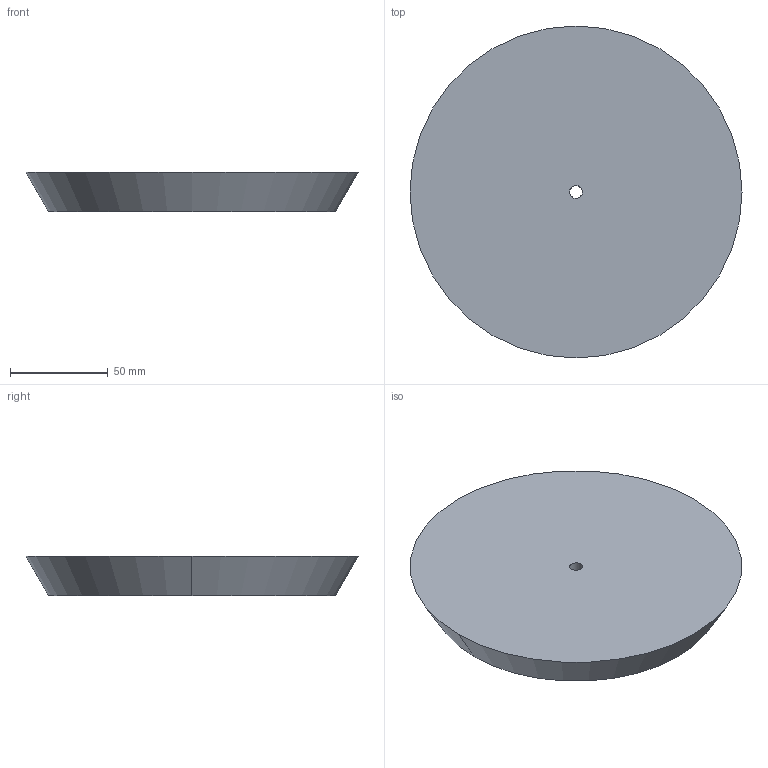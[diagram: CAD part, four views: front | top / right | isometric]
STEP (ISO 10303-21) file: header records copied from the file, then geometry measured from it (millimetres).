
FILE_DESCRIPTION(('CATIA V5 STEP Exchange'),'2;1');
FILE_NAME('C:\Users\andres.garcia\OneDrive - IQS\ASIGNATURAS\DAO\Controles\2223\c0\c1-VALLVERDU_Jordi-tapon.stp','2023-02-03T08:22:07+00:00',('none'),('none'),'CATIA Version 5-6 Release 2013 SP6','CATIA V5 STEP AP203','none');
FILE_SCHEMA(('CONFIG_CONTROL_DESIGN'));
Length unit declared in the file: millimetre
Products named in the file (1): c1-VALLVERDU_Jordi-tapon
Bounding box: 170 x 170 x 20 mm (x, y, z)
Volume: 394419.8 mm3; surface area: 51486.1 mm2
Topology: 1 solids, 1 shells, 6 faces, 12 edges, 8 vertices
Faces by surface type: cylinder 2, plane 2, cone 2
Entity records: 196 total; most frequent: CARTESIAN_POINT 26, ORIENTED_EDGE 24, DIRECTION 22, AXIS2_PLACEMENT_3D 14, EDGE_CURVE 12, CIRCLE 8, EDGE_LOOP 8, VERTEX_POINT 8
